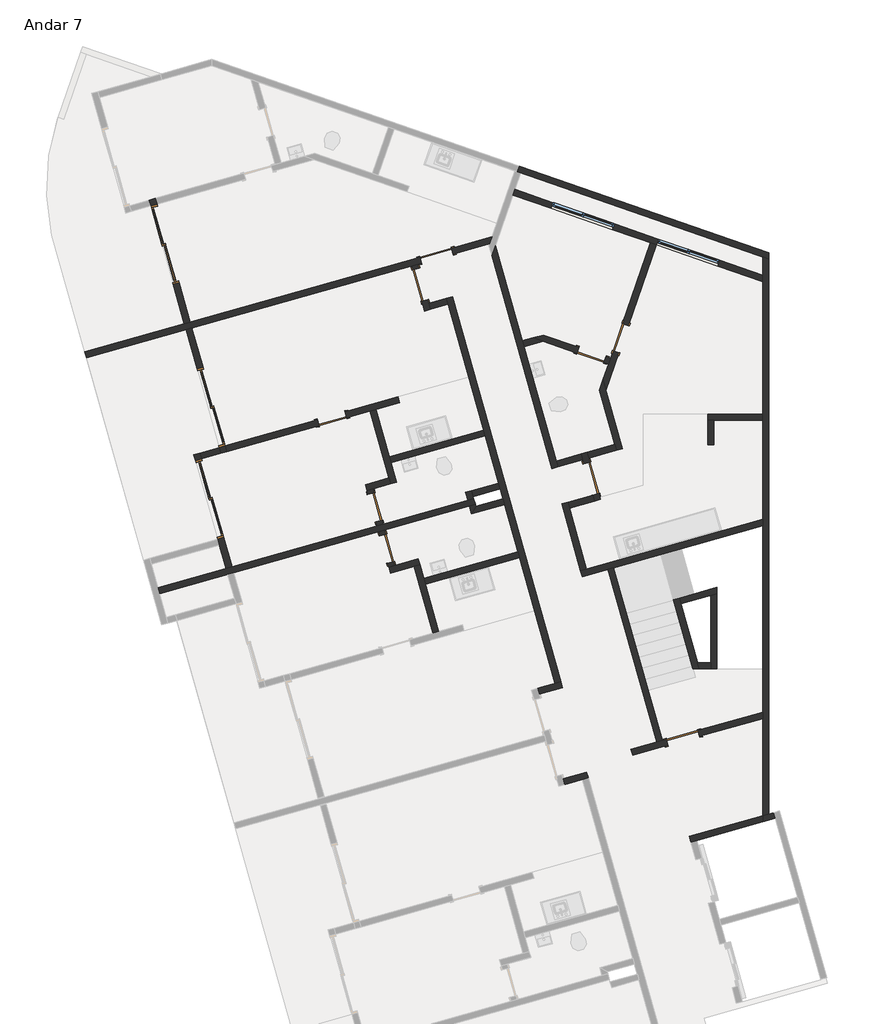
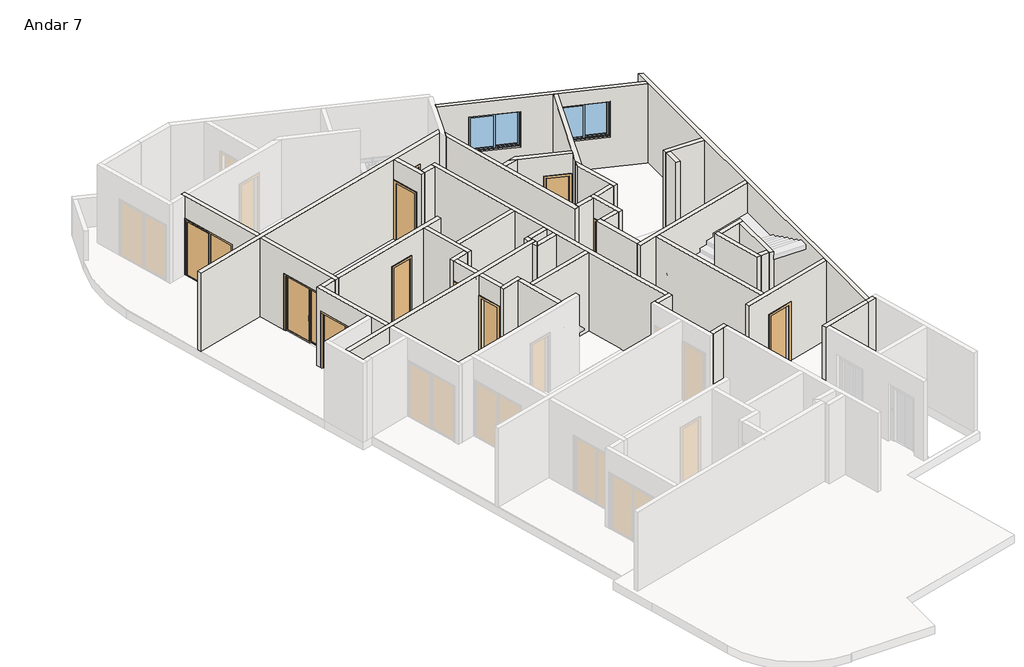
# One storey, part 2 of 3: 48 walls, 12 doors, 2 windows.
"""IFC4 building model written with IfcOpenShell, lengths in millimetres."""

from ifc_helpers import new_model, si_unit, frame, origin, place, context, project, spatial, polyline, outline, extrude, faceted_brep, transform, mapped, element, save
from components import p2_80cm_9d4be4ef, p2_80cm_083652d6, p3_70cm_ef4d15e3, p3_70cm_0a698c7c, p4_correr_200cm_eaaa0877, jx_160cm_e9e36a0c

model = new_model("IFC4")

# Units and contexts
model_context = context("Model", 3, world=origin())
ifc_project = project(units=[si_unit("LENGTHUNIT", "METRE", prefix="MILLI")], contexts=[model_context])

# Site, building, storey
site = spatial("IfcSite", under=ifc_project)
building = spatial("IfcBuilding", under=site)
storey = spatial("IfcBuildingStorey", under=building, Name="Andar 7", Elevation=71050.0)

# Doors
placement = place(None, origin())
p2_80cm_shape = p2_80cm_9d4be4ef(model_context)
element("IfcDoor", 1, ObjectType="M_Folha única1 : P2 - 80CM", at=placement, inside=storey, context=model_context, shape_type="MappedRepresentation", body=[
    mapped(p2_80cm_shape, transform((-83145.1128896, 30941.0402894, 71050.0), x_axis=(-0.9623628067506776, -0.2717679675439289, 0.0), y_axis=(0.2717679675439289, -0.9623628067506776, 0.0), z_axis=(0.0, 0.0, 1.0))),
])
element("IfcDoor", 2, ObjectType="M_Folha única1 : P2 - 80CM", at=placement, inside=storey, context=model_context, shape_type="MappedRepresentation", body=[
    mapped(p2_80cm_shape, transform((-79349.4097406, 25479.1041247, 71050.0), x_axis=(-0.27176796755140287, 0.962362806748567, 0.0), y_axis=(-0.962362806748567, -0.27176796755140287, 0.0), z_axis=(0.0, 0.0, 1.0))),
])
p2_80cm_2_shape = p2_80cm_083652d6(model_context)
element("IfcDoor", 3, ObjectType="M_Folha única1 : P2 - 80CM", at=placement, inside=storey, context=model_context, shape_type="MappedRepresentation", body=[
    mapped(p2_80cm_2_shape, transform((-83542.2049222, 30231.4150941, 71050.0), x_axis=(-0.2717679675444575, 0.9623628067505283, 0.0), y_axis=(-0.9623628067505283, -0.2717679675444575, 0.0), z_axis=(0.0, 0.0, 1.0))),
])
p3_70cm_shape = p3_70cm_ef4d15e3(model_context)
element("IfcDoor", 4, ObjectType="M_Folha única1 : P3 - 70CM", at=placement, inside=storey, context=model_context, shape_type="MappedRepresentation", body=[
    mapped(p3_70cm_shape, transform((-84650.97864, 24774.7108835, 71050.0), x_axis=(0.2717679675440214, -0.9623628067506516, 0.0), y_axis=(0.9623628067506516, 0.2717679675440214, 0.0), z_axis=(0.0, 0.0, 1.0))),
])
p3_70cm_2_shape = p3_70cm_0a698c7c(model_context)
element("IfcDoor", 5, ObjectType="M_Folha única1 : P3 - 70CM", at=placement, inside=storey, context=model_context, shape_type="MappedRepresentation", body=[
    mapped(p3_70cm_2_shape, transform((-84365.6222741, 23764.2299364, 71050.0), x_axis=(-0.2717679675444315, 0.9623628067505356, 0.0), y_axis=(-0.9623628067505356, -0.2717679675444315, 0.0), z_axis=(0.0, 0.0, 1.0))),
])
element("IfcDoor", 6, ObjectType="M_Folha única1 : P3 - 70CM", at=placement, inside=storey, context=model_context, shape_type="MappedRepresentation", body=[
    mapped(p3_70cm_2_shape, transform((-85705.4317558, 26944.8211633, 71050.0), x_axis=(0.9623628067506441, 0.2717679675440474, 0.0), y_axis=(-0.2717679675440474, 0.9623628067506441, 0.0), z_axis=(0.0, 0.0, 1.0))),
])
element("IfcDoor", 7, ObjectType="M_Folha única1 : P3 - 70CM", at=placement, inside=storey, context=model_context, shape_type="MappedRepresentation", body=[
    mapped(p3_70cm_2_shape, transform((-79346.1223746, 28509.6973665, 71050.0), x_axis=(0.9449109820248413, -0.32732741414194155, 0.0), y_axis=(0.32732741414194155, 0.9449109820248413, 0.0), z_axis=(0.0, 0.0, 1.0))),
])
element("IfcDoor", 8, ObjectType="M_Folha única1 : P3 - 70CM", at=placement, inside=storey, context=model_context, shape_type="MappedRepresentation", body=[
    mapped(p3_70cm_2_shape, transform((-78626.5662556, 28921.8732895, 71050.0), x_axis=(-0.32732741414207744, -0.9449109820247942, 0.0), y_axis=(0.9449109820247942, -0.32732741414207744, 0.0), z_axis=(0.0, 0.0, 1.0))),
])
p4_correr_200cm_shape = p4_correr_200cm_eaaa0877(model_context)
element("IfcDoor", 9, ObjectType="Porta de correr dupla envidraçada sem revestimento : P4 - CORRER - 200CM", at=placement, inside=storey, context=model_context, shape_type="MappedRepresentation", body=[
    mapped(p4_correr_200cm_shape, transform((-89799.7974026, 31217.9316171, 71050.0), x_axis=(0.27176796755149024, -0.9623628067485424, 0.0), y_axis=(0.9623628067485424, 0.27176796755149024, 0.0), z_axis=(0.0, 0.0, 1.0))),
])
element("IfcDoor", 10, ObjectType="Porta de correr dupla envidraçada sem revestimento : P4 - CORRER - 200CM", at=placement, inside=storey, context=model_context, shape_type="MappedRepresentation", body=[
    mapped(p4_correr_200cm_shape, transform((-88671.9603372, 27224.125969, 71050.0), x_axis=(-0.27176796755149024, 0.9623628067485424, 0.0), y_axis=(-0.9623628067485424, -0.27176796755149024, 0.0), z_axis=(0.0, 0.0, 1.0))),
])
element("IfcDoor", 11, ObjectType="Porta de correr dupla envidraçada sem revestimento : P4 - CORRER - 200CM", at=placement, inside=storey, context=model_context, shape_type="MappedRepresentation", body=[
    mapped(p4_correr_200cm_shape, transform((-88709.3738038, 24979.4758572, 71050.0), x_axis=(-0.2717679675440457, 0.9623628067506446, 0.0), y_axis=(-0.9623628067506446, -0.2717679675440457, 0.0), z_axis=(0.0, 0.0, 1.0))),
])
element("IfcDoor", 12, ObjectType="M_Folha única1 : PCF1 - 80CM", at=placement, inside=storey, context=model_context, shape_type="MappedRepresentation", body=[
    mapped(p2_80cm_shape, transform((-77103.5502958, 19127.1105693, 71050.0), x_axis=(-0.9623628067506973, -0.2717679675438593, 0.0), y_axis=(0.2717679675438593, -0.9623628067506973, 0.0), z_axis=(0.0, 0.0, 1.0))),
])

# Walls
element("IfcWall", 13, ObjectType="Básica .15 -  Interna", at=placement, inside=storey, context=model_context, shape_type="Brep", body=[
    faceted_brep([(-82901.0804648, 29892.9118737, 71050.0), (-82860.3152697, 29748.5574527, 71050.0), (-81990.6577736, 26668.9964711, 71050.0), (-81949.8925784, 26524.6420501, 71050.0), (-81623.7710174, 25369.806682, 71050.0), (-81583.0058223, 25225.452261, 71050.0), (-81515.0638304, 24984.8615593, 71050.0), (-81474.2986352, 24840.5071383, 71050.0), (-81148.1770742, 23685.6717702, 71050.0), (-81107.4118791, 23541.3173492, 71050.0), (-80237.7543829, 20461.7563676, 71050.0), (-80237.7543829, 20461.7563676, 73950.0), (-81107.4118791, 23541.3173492, 73950.0), (-81148.1770742, 23685.6717702, 73950.0), (-81474.2986352, 24840.5071383, 73950.0), (-81515.0638304, 24984.8615593, 73950.0), (-81583.0058223, 25225.452261, 73950.0), (-81623.7710174, 25369.806682, 73950.0), (-81949.8925784, 26524.6420501, 73950.0), (-81990.6577736, 26668.9964711, 73950.0), (-82860.3152697, 29748.5574527, 73950.0), (-82901.0804648, 29892.9118737, 73950.0), (-82756.7260438, 29933.6770689, 71050.0), (-82756.7260438, 29933.6770689, 73950.0), (-80093.3999619, 20502.5215627, 73950.0), (-80093.3999619, 20502.5215627, 71050.0)], [[[0, 1, 2, 3, 4, 5, 6, 7, 8, 9, 10, 11, 12, 13, 14, 15, 16, 17, 18, 19, 20, 21]], [[22, 23, 24, 25]], [[10, 9, 8, 7, 6, 5, 4, 3, 2, 1, 0, 22, 25]], [[21, 20, 19, 18, 17, 16, 15, 14, 13, 12, 11, 24, 23]], [[0, 21, 23, 22]], [[11, 10, 25, 24]]]),
])
element("IfcWall", 14, ObjectType="Básica .15 -  Interna", at=placement, inside=storey, context=model_context, shape_type="Brep", body=[
    faceted_brep([(-83750.2661164, 30692.2138999, 71050.0), (-83723.0893197, 30595.9776193, 71050.0), (-83723.0893197, 30595.9776193, 73150.0), (-83505.6749457, 29826.0873739, 73150.0), (-83505.6749457, 29826.0873739, 71050.0), (-83437.7329538, 29585.4966722, 71050.0), (-83437.7329538, 29585.4966722, 73950.0), (-83750.2661164, 30692.2138999, 73950.0), (-83578.7348987, 30636.7428144, 73150.0), (-83578.7348987, 30636.7428144, 71050.0), (-83605.9116954, 30732.9790951, 71050.0), (-83605.9116954, 30732.9790951, 73950.0), (-83334.1437279, 29770.6162883, 73950.0), (-83293.3785328, 29626.2618673, 73950.0), (-83293.3785328, 29626.2618673, 71050.0), (-83334.1437279, 29770.6162883, 71050.0), (-83361.3205246, 29866.852569, 71050.0), (-83361.3205246, 29866.852569, 73150.0)], [[[0, 1, 2, 3, 4, 5, 6, 7]], [[8, 9, 10, 11, 12, 13, 14, 15, 16, 17]], [[10, 9, 1, 0]], [[16, 15, 14, 5, 4]], [[7, 6, 13, 12, 11]], [[6, 5, 14, 13]], [[0, 7, 11, 10]], [[2, 1, 9, 8]], [[3, 2, 8, 17]], [[4, 3, 17, 16]]]),
])
element("IfcWall", 15, ObjectType="Básica .15 -  Interna", at=placement, inside=storey, context=model_context, shape_type="SweptSolid", body=[
    extrude(outline(polyline([(-82860.3152697, 29748.5574527), (-83293.3785328, 29626.2618673), (-83334.1437279, 29770.6162883), (-82901.0804648, 29892.9118737), (-82860.3152697, 29748.5574527)])), frame((0.0, 0.0, 71050.0), z_axis=(0.0, 0.0, 1.0), x_axis=(1.0, 0.0, 0.0)), (0.0, 0.0, 1.0), 2900.0),
])
element("IfcWall", 16, ObjectType="Básica .15 -  Interna", at=placement, inside=storey, context=model_context, shape_type="Brep", body=[
    faceted_brep([(-80093.3999619, 20502.5215627, 71050.0), (-80237.7543829, 20461.7563676, 71050.0), (-80670.817646, 20339.4607822, 71050.0), (-80670.817646, 20339.4607822, 73950.0), (-80237.7543829, 20461.7563676, 73950.0), (-80093.3999619, 20502.5215627, 73950.0), (-80052.6347668, 20358.1671417, 71050.0), (-80052.6347668, 20358.1671417, 73950.0), (-80630.0524508, 20195.1063612, 73950.0), (-80630.0524508, 20195.1063612, 71050.0)], [[[0, 1, 2, 3, 4, 5]], [[6, 7, 8, 9]], [[2, 1, 0, 6, 9]], [[5, 4, 3, 8, 7]], [[3, 2, 9, 8]], [[0, 5, 7, 6]]]),
])
element("IfcWall", 17, ObjectType="Básica .15 -  Interna", at=placement, inside=storey, context=model_context, shape_type="Brep", body=[
    faceted_brep([(-80004.9861255, 17981.6719056, 71050.0), (-79571.9228624, 18103.967491, 71050.0), (-79427.5684414, 18144.7326862, 71050.0), (-79427.5684414, 18144.7326862, 73950.0), (-79571.9228624, 18103.967491, 73950.0), (-80004.9861255, 17981.6719056, 73950.0), (-80045.7513206, 18126.0263266, 71050.0), (-80045.7513206, 18126.0263266, 73950.0), (-79468.3336366, 18289.0871072, 73950.0), (-79468.3336366, 18289.0871072, 71050.0)], [[[0, 1, 2, 3, 4, 5]], [[6, 7, 8, 9]], [[2, 1, 0, 6, 9]], [[5, 4, 3, 8, 7]], [[3, 2, 9, 8]], [[0, 5, 7, 6]]]),
])
element("IfcWall", 18, ObjectType="Básica .15 -  Interna", at=placement, inside=storey, context=model_context, shape_type="Brep", body=[
    faceted_brep([(-88305.9570711, 23274.9583478, 73950.0), (-88469.0178517, 23852.3760319, 73950.0), (-88509.7830468, 23996.7304529, 73950.0), (-89094.084177, 26065.8104874, 73950.0), (-89094.084177, 26065.8104874, 71050.0), (-89053.3189819, 25921.4560664, 71050.0), (-89053.3189819, 25921.4560664, 73150.0), (-88509.7830468, 23996.7304529, 73150.0), (-88509.7830468, 23996.7304529, 71050.0), (-88469.0178517, 23852.3760319, 71050.0), (-88305.9570711, 23274.9583478, 71050.0), (-88949.729756, 26106.5756825, 73950.0), (-88908.9645609, 25962.2212615, 73950.0), (-88161.6026501, 23315.723543, 73950.0), (-88161.6026501, 23315.723543, 71050.0), (-88365.4286258, 24037.495648, 71050.0), (-88365.4286258, 24037.495648, 73150.0), (-88908.9645609, 25962.2212615, 73150.0), (-88908.9645609, 25962.2212615, 71050.0), (-88949.729756, 26106.5756825, 71050.0)], [[[0, 1, 2, 3, 4, 5, 6, 7, 8, 9, 10]], [[11, 12, 13, 14, 15, 16, 17, 18, 19]], [[4, 19, 18, 5]], [[14, 10, 9, 8, 15]], [[3, 2, 1, 0, 13, 12, 11]], [[4, 3, 11, 19]], [[0, 10, 14, 13]], [[17, 6, 5, 18]], [[6, 17, 16, 7]], [[7, 16, 15, 8]]]),
])
element("IfcWall", 19, ObjectType="Básica .15 -  Interna", at=placement, inside=storey, context=model_context, shape_type="Brep", body=[
    faceted_brep([(-89143.3190618, 29169.2341801, 73950.0), (-88328.0151592, 26282.1457598, 73950.0), (-88287.249964, 26137.7913388, 73950.0), (-88287.249964, 26137.7913388, 71050.0), (-88328.0151592, 26282.1457598, 71050.0), (-88328.0151592, 26282.1457598, 73150.0), (-88871.5510943, 28206.8713733, 73150.0), (-88871.5510943, 28206.8713733, 71050.0), (-89143.3190618, 29169.2341801, 71050.0), (-88431.604385, 26097.0261437, 73950.0), (-88472.3695802, 26241.3805647, 73950.0), (-89287.6734828, 29128.468985, 73950.0), (-89287.6734828, 29128.468985, 71050.0), (-89015.9055153, 28166.1061782, 71050.0), (-89015.9055153, 28166.1061782, 73150.0), (-88472.3695802, 26241.3805647, 73150.0), (-88472.3695802, 26241.3805647, 71050.0), (-88431.604385, 26097.0261437, 71050.0)], [[[0, 1, 2, 3, 4, 5, 6, 7, 8]], [[9, 10, 11, 12, 13, 14, 15, 16, 17]], [[3, 17, 16, 4]], [[12, 8, 7, 13]], [[2, 1, 0, 11, 10, 9]], [[3, 2, 9, 17]], [[0, 8, 12, 11]], [[6, 14, 13, 7]], [[14, 6, 5, 15]], [[15, 5, 4, 16]]]),
])
element("IfcWall", 20, ObjectType="Básica .15 -  Interna", at=placement, inside=storey, context=model_context, shape_type="Brep", body=[
    faceted_brep([(-76904.7538909, 16570.3643175, 71050.0), (-76760.3994699, 16611.1295126, 71050.0), (-75147.8282189, 17066.5141226, 71050.0), (-75147.8282189, 17066.5141226, 73950.0), (-76760.3994699, 16611.1295126, 73950.0), (-76904.7538909, 16570.3643175, 73950.0), (-76945.5190861, 16714.7187385, 71050.0), (-76945.5190861, 16714.7187385, 73950.0), (-75147.8282189, 17222.3804954, 73950.0), (-75147.8282189, 17222.3804954, 71050.0)], [[[0, 1, 2, 3, 4, 5]], [[6, 7, 8, 9]], [[2, 1, 0, 6, 9]], [[5, 4, 3, 8, 7]], [[0, 5, 7, 6]], [[3, 2, 9, 8]]]),
])
element("IfcWall", 21, ObjectType="Básica .15 -  Interna", at=placement, inside=storey, context=model_context, shape_type="Brep", body=[
    faceted_brep([(-79570.9048554, 23078.5590693, 71050.0), (-78948.2127609, 23254.4051886, 71050.0), (-78803.8582924, 23295.1703972, 71050.0), (-75147.8282189, 24327.6207947, 71050.0), (-75147.8282189, 24327.6207947, 73950.0), (-78803.8582924, 23295.1703972, 73950.0), (-78948.2127609, 23254.4051886, 73950.0), (-79570.9048554, 23078.5590693, 73950.0), (-79611.6700506, 23222.9134903, 71050.0), (-79611.6700506, 23222.9134903, 73950.0), (-79467.3156296, 23263.6786855, 73950.0), (-75147.8282189, 24483.4871675, 73950.0), (-75147.8282189, 24483.4871675, 71050.0), (-79467.3156296, 23263.6786855, 71050.0)], [[[0, 1, 2, 3, 4, 5, 6, 7]], [[8, 9, 10, 11, 12, 13]], [[3, 2, 1, 0, 8, 13, 12]], [[7, 6, 5, 4, 11, 10, 9]], [[0, 7, 9, 8]], [[4, 3, 12, 11]]]),
])
element("IfcWall", 22, ObjectType="Básica .15 -  Interna", at=placement, inside=storey, context=model_context, shape_type="SweptSolid", body=[
    extrude(outline(polyline([(-77749.4687652, 19022.6385875), (-78948.2127609, 23254.4051886), (-78803.8582924, 23295.1703972), (-77605.1142967, 19063.4037961), (-77749.4687652, 19022.6385875)])), frame((0.0, 0.0, 71050.0), z_axis=(0.0, 0.0, 1.0), x_axis=(1.0, 0.0, 0.0)), (0.0, 0.0, 1.0), 2900.0),
])
element("IfcWall", 23, ObjectType="Básica .15 -  Interna", at=placement, inside=storey, context=model_context, shape_type="Brep", body=[
    faceted_brep([(-77508.878016, 19090.5805928, 73150.0), (-77508.878016, 19090.5805928, 71050.0), (-77605.1142967, 19063.4037961, 71050.0), (-77749.4687652, 19022.6385875, 71050.0), (-78375.5945972, 18845.8227925, 71050.0), (-78375.5945972, 18845.8227925, 73950.0), (-77749.4687652, 19022.6385875, 73950.0), (-77605.1142967, 19063.4037961, 73950.0), (-75147.8282189, 19757.3329862, 73950.0), (-75147.8282189, 19757.3329862, 71050.0), (-76738.9877706, 19307.9949669, 71050.0), (-76738.9877706, 19307.9949669, 73150.0), (-78334.829402, 18701.4683715, 71050.0), (-77468.1128209, 18946.2261718, 71050.0), (-77468.1128209, 18946.2261718, 73150.0), (-76698.2225755, 19163.6405459, 73150.0), (-76698.2225755, 19163.6405459, 71050.0), (-75147.8282189, 19601.4666134, 71050.0), (-75147.8282189, 19601.4666134, 73950.0), (-78334.829402, 18701.4683715, 73950.0)], [[[0, 1, 2, 3, 4, 5, 6, 7, 8, 9, 10, 11]], [[12, 13, 14, 15, 16, 17, 18, 19]], [[10, 9, 17, 16]], [[4, 3, 2, 1, 13, 12]], [[5, 4, 12, 19]], [[8, 7, 6, 5, 19, 18]], [[14, 13, 1, 0]], [[15, 14, 0, 11]], [[16, 15, 11, 10]], [[9, 8, 18, 17]]]),
])
element("IfcWall", 24, ObjectType="Básica .15 - Externa", at=placement, inside=storey, context=model_context, shape_type="Brep", body=[
    faceted_brep([(-75147.8282189, 30909.9128092, 73950.0), (-75147.8282189, 30909.9128092, 71050.0), (-75147.8282189, 30461.6117638, 71050.0), (-75147.8282189, 30302.8666514, 71050.0), (-75147.8282189, 27060.8243598, 71050.0), (-75147.8282189, 26910.8243598, 71050.0), (-75147.8282189, 24483.4871675, 71050.0), (-75147.8282189, 24327.6207947, 71050.0), (-75147.8282189, 19757.3329862, 71050.0), (-75147.8282189, 19601.4666134, 71050.0), (-75147.8282189, 17222.3804954, 71050.0), (-75147.8282189, 17222.3804954, 73950.0), (-75147.8282189, 19601.4666134, 73950.0), (-75147.8282189, 19757.3329862, 73950.0), (-75147.8282189, 24327.6207947, 73950.0), (-75147.8282189, 24483.4871675, 73950.0), (-75147.8282189, 26910.8243598, 73950.0), (-75147.8282189, 27060.8243598, 73950.0), (-75147.8282189, 30302.8666514, 73950.0), (-75147.8282189, 30461.6117638, 73950.0), (-74997.8282189, 30857.9511821, 71050.0), (-74997.8282189, 30857.9511821, 72350.0), (-74997.8282189, 30857.9511821, 73650.0), (-74997.8282189, 30857.9511821, 73950.0), (-74997.8282189, 17264.7399828, 73950.0), (-74997.8282189, 17264.7399828, 71050.0)], [[[0, 1, 2, 3, 4, 5, 6, 7, 8, 9, 10, 11, 12, 13, 14, 15, 16, 17, 18, 19]], [[20, 21, 22, 23, 24, 25]], [[10, 9, 8, 7, 6, 5, 4, 3, 2, 1, 20, 25]], [[0, 19, 18, 17, 16, 15, 14, 13, 12, 11, 24, 23]], [[11, 10, 25, 24]], [[0, 23, 22, 21, 20, 1]]]),
])
element("IfcWall", 25, ObjectType="Básica .15 -  Interna", at=placement, inside=storey, context=model_context, shape_type="Brep", body=[
    faceted_brep([(-80073.6755954, 24858.9302618, 71050.0), (-79611.6700506, 23222.9134903, 71050.0), (-79611.6700506, 23222.9134903, 73950.0), (-80073.6755954, 24858.9302618, 73950.0), (-79929.3211744, 24899.695457, 71050.0), (-79929.3211744, 24899.695457, 73950.0), (-79888.5559793, 24755.3410359, 73950.0), (-79467.3156296, 23263.6786855, 73950.0), (-79467.3156296, 23263.6786855, 71050.0), (-79888.5559793, 24755.3410359, 71050.0)], [[[0, 1, 2, 3]], [[4, 5, 6, 7, 8, 9]], [[1, 0, 4, 9, 8]], [[3, 2, 7, 6, 5]], [[0, 3, 5, 4]], [[2, 1, 8, 7]]]),
])
element("IfcWall", 26, ObjectType="Básica .15 -  Interna", at=placement, inside=storey, context=model_context, shape_type="Brep", body=[
    faceted_brep([(-79888.5559793, 24755.3410359, 71050.0), (-79272.1145689, 24929.4219834, 71050.0), (-79272.1145689, 24929.4219834, 73950.0), (-79888.5559793, 24755.3410359, 73950.0), (-79929.3211744, 24899.695457, 71050.0), (-79929.3211744, 24899.695457, 73950.0), (-79312.8797641, 25073.7764044, 73950.0), (-79312.8797641, 25073.7764044, 73150.0), (-79312.8797641, 25073.7764044, 71050.0)], [[[0, 1, 2, 3]], [[4, 5, 6, 7, 8]], [[1, 0, 4, 8]], [[3, 2, 6, 5]], [[0, 3, 5, 4]], [[2, 1, 8, 7, 6]]]),
])
element("IfcWall", 27, ObjectType="Básica .15 -  Interna", at=placement, inside=storey, context=model_context, shape_type="Brep", body=[
    faceted_brep([(-79598.23613, 26084.2573515, 71050.0), (-79557.4709349, 25939.9029305, 71050.0), (-79530.2941381, 25843.6666498, 71050.0), (-79530.2941381, 25843.6666498, 73150.0), (-79312.8797641, 25073.7764044, 73150.0), (-79312.8797641, 25073.7764044, 71050.0), (-79272.1145689, 24929.4219834, 71050.0), (-79272.1145689, 24929.4219834, 73950.0), (-79312.8797641, 25073.7764044, 73950.0), (-79557.4709349, 25939.9029305, 73950.0), (-79598.23613, 26084.2573515, 73950.0), (-79385.9397171, 25884.4318449, 73150.0), (-79385.9397171, 25884.4318449, 71050.0), (-79413.1165138, 25980.6681256, 71050.0), (-79453.881709, 26125.0225466, 71050.0), (-79453.881709, 26125.0225466, 73950.0), (-79413.1165138, 25980.6681256, 73950.0), (-79127.7601479, 24970.1871785, 73950.0), (-79127.7601479, 24970.1871785, 71050.0), (-79168.5253431, 25114.5415995, 71050.0), (-79168.5253431, 25114.5415995, 73150.0)], [[[0, 1, 2, 3, 4, 5, 6, 7, 8, 9, 10]], [[11, 12, 13, 14, 15, 16, 17, 18, 19, 20]], [[19, 18, 6, 5]], [[14, 13, 12, 2, 1, 0]], [[10, 9, 8, 7, 17, 16, 15]], [[7, 6, 18, 17]], [[0, 10, 15, 14]], [[3, 2, 12, 11]], [[4, 3, 11, 20]], [[5, 4, 20, 19]]]),
])
element("IfcWall", 28, ObjectType="Básica .15 -  Interna", at=placement, inside=storey, context=model_context, shape_type="Brep", body=[
    faceted_brep([(-81789.2550074, 30934.0017027, 71050.0), (-80318.2667662, 25725.0567879, 71050.0), (-80318.2667662, 25725.0567879, 73950.0), (-81789.2550074, 30934.0017027, 73950.0), (-81703.3880158, 31181.8778654, 71050.0), (-81703.3880158, 31181.8778654, 73950.0), (-81045.1503443, 28850.9797144, 73950.0), (-81004.3851492, 28706.6252933, 73950.0), (-80214.6775403, 25910.176404, 73950.0), (-80173.9123452, 25765.821983, 73950.0), (-80173.9123452, 25765.821983, 71050.0), (-80214.6775403, 25910.176404, 71050.0), (-81004.3851492, 28706.6252933, 71050.0), (-81045.1503443, 28850.9797144, 71050.0)], [[[0, 1, 2, 3]], [[4, 5, 6, 7, 8, 9, 10, 11, 12, 13]], [[1, 0, 4, 13, 12, 11, 10]], [[3, 2, 9, 8, 7, 6, 5]], [[0, 3, 5, 4]], [[2, 1, 10, 9]]]),
])
element("IfcWall", 29, ObjectType="Básica .15 -  Interna", at=placement, inside=storey, context=model_context, shape_type="Brep", body=[
    faceted_brep([(-88908.9645609, 25962.2212615, 71050.0), (-88431.604385, 26097.0261437, 71050.0), (-88431.604385, 26097.0261437, 73950.0), (-88908.9645609, 25962.2212615, 73950.0), (-88908.9645609, 25962.2212615, 73150.0), (-88949.729756, 26106.5756825, 71050.0), (-88949.729756, 26106.5756825, 73950.0), (-88472.3695802, 26241.3805647, 73950.0), (-88472.3695802, 26241.3805647, 71050.0)], [[[0, 1, 2, 3, 4]], [[5, 6, 7, 8]], [[1, 0, 5, 8]], [[3, 2, 7, 6]], [[0, 4, 3, 6, 5]], [[2, 1, 8, 7]]]),
])
element("IfcWall", 30, ObjectType="Básica .15 -  Interna", at=placement, inside=storey, context=model_context, shape_type="SweptSolid", body=[
    extrude(outline(polyline([(-79557.4709349, 25939.9029305), (-80173.9123452, 25765.821983), (-80214.6775403, 25910.176404), (-79598.23613, 26084.2573515), (-79557.4709349, 25939.9029305)])), frame((0.0, 0.0, 71050.0), z_axis=(0.0, 0.0, 1.0), x_axis=(1.0, 0.0, 0.0)), (0.0, 0.0, 1.0), 2900.0),
])
element("IfcWall", 31, ObjectType="Básica .15 -  Interna", at=placement, inside=storey, context=model_context, shape_type="Brep", body=[
    faceted_brep([(-91725.2428613, 28440.1077234, 71050.0), (-89287.6734828, 29128.468985, 71050.0), (-89143.3190618, 29169.2341801, 71050.0), (-83750.2661164, 30692.2138999, 71050.0), (-83605.9116954, 30732.9790951, 71050.0), (-83509.6754148, 30760.1558918, 71050.0), (-83509.6754148, 30760.1558918, 73150.0), (-82739.7851694, 30977.5702659, 73150.0), (-82739.7851694, 30977.5702659, 71050.0), (-81845.4155775, 31230.1371819, 71050.0), (-81845.4155775, 31230.1371819, 73950.0), (-83605.9116954, 30732.9790951, 73950.0), (-83750.2661164, 30692.2138999, 73950.0), (-89143.3190618, 29169.2341801, 73950.0), (-89287.6734828, 29128.468985, 73950.0), (-91725.2428613, 28440.1077234, 73950.0), (-83550.4406099, 30904.5103128, 73150.0), (-83550.4406099, 30904.5103128, 71050.0), (-89184.084257, 29313.5886011, 71050.0), (-89328.438678, 29272.823406, 71050.0), (-91766.0080564, 28584.4621444, 71050.0), (-91766.0080564, 28584.4621444, 73950.0), (-89328.438678, 29272.823406, 73950.0), (-89184.084257, 29313.5886011, 73950.0), (-81785.5670817, 31402.9045654, 73950.0), (-81785.5670817, 31402.9045654, 71050.0), (-82780.5503645, 31121.9246869, 71050.0), (-82780.5503645, 31121.9246869, 73150.0)], [[[0, 1, 2, 3, 4, 5, 6, 7, 8, 9, 10, 11, 12, 13, 14, 15]], [[16, 17, 18, 19, 20, 21, 22, 23, 24, 25, 26, 27]], [[26, 25, 9, 8]], [[20, 19, 18, 17, 5, 4, 3, 2, 1, 0]], [[15, 14, 13, 12, 11, 10, 24, 23, 22, 21]], [[0, 15, 21, 20]], [[10, 9, 25, 24]], [[6, 5, 17, 16]], [[7, 6, 16, 27]], [[8, 7, 27, 26]]]),
])
element("IfcWall", 32, ObjectType="Básica .15 -  Interna", at=placement, inside=storey, context=model_context, shape_type="Brep", body=[
    faceted_brep([(-90040.1533547, 32345.0314424, 73950.0), (-89999.3881596, 32200.6770214, 73950.0), (-89184.084257, 29313.5886011, 73950.0), (-89184.084257, 29313.5886011, 71050.0), (-89455.8522245, 30275.9514079, 71050.0), (-89455.8522245, 30275.9514079, 73150.0), (-89999.3881596, 32200.6770214, 73150.0), (-89999.3881596, 32200.6770214, 71050.0), (-90040.1533547, 32345.0314424, 71050.0), (-89328.438678, 29272.823406, 73950.0), (-90143.7425806, 32159.9118263, 73950.0), (-90184.5077758, 32304.2662473, 73950.0), (-90184.5077758, 32304.2662473, 71050.0), (-90143.7425806, 32159.9118262, 71050.0), (-90143.7425806, 32159.9118262, 73150.0), (-89600.2066455, 30235.1862128, 73150.0), (-89600.2066455, 30235.1862128, 71050.0), (-89328.438678, 29272.823406, 71050.0)], [[[0, 1, 2, 3, 4, 5, 6, 7, 8]], [[9, 10, 11, 12, 13, 14, 15, 16, 17]], [[12, 8, 7, 13]], [[3, 17, 16, 4]], [[2, 1, 0, 11, 10, 9]], [[0, 8, 12, 11]], [[3, 2, 9, 17]], [[15, 5, 4, 16]], [[5, 15, 14, 6]], [[6, 14, 13, 7]]]),
])
element("IfcWall", 33, ObjectType="Básica .15 -  Interna", at=placement, inside=storey, context=model_context, shape_type="Brep", body=[
    faceted_brep([(-89936.6922366, 22658.5779377, 71050.0), (-88265.191876, 23130.6039268, 71050.0), (-88120.837455, 23171.369122, 71050.0), (-84560.09507, 24176.9106019, 71050.0), (-84415.740649, 24217.675797, 71050.0), (-82192.6825654, 24845.459802, 71050.0), (-82192.6825654, 24845.459802, 73950.0), (-84415.740649, 24217.675797, 73950.0), (-84560.09507, 24176.9106019, 73950.0), (-88120.837455, 23171.369122, 73950.0), (-88265.191876, 23130.6039268, 73950.0), (-89936.6922366, 22658.5779377, 73950.0), (-89977.4574318, 22802.9323587, 71050.0), (-89977.4574318, 22802.9323587, 73950.0), (-88305.9570711, 23274.9583478, 73950.0), (-88161.6026501, 23315.723543, 73950.0), (-84600.8602651, 24321.2650229, 73950.0), (-84456.5058441, 24362.030218, 73950.0), (-82233.4477605, 24989.814223, 73950.0), (-82233.4477605, 24989.814223, 71050.0), (-84456.5058441, 24362.030218, 71050.0), (-84600.8602651, 24321.2650229, 71050.0), (-88161.6026501, 23315.723543, 71050.0), (-88305.9570711, 23274.9583478, 71050.0)], [[[0, 1, 2, 3, 4, 5, 6, 7, 8, 9, 10, 11]], [[12, 13, 14, 15, 16, 17, 18, 19, 20, 21, 22, 23]], [[5, 4, 3, 2, 1, 0, 12, 23, 22, 21, 20, 19]], [[6, 5, 19, 18]], [[11, 10, 9, 8, 7, 6, 18, 17, 16, 15, 14, 13]], [[0, 11, 13, 12]]]),
])
element("IfcWall", 34, ObjectType="Básica .15 -  Interna", at=placement, inside=storey, context=model_context, shape_type="Brep", body=[
    faceted_brep([(-81272.8781344, 32424.6503839, 71050.0), (-77897.5766162, 31255.4093243, 71050.0), (-77755.8399689, 31206.3102121, 71050.0), (-75147.8282189, 30302.8666514, 71050.0), (-75147.8282189, 30302.8666514, 73950.0), (-77755.8399689, 31206.3102121, 73950.0), (-77897.5766162, 31255.4093243, 73950.0), (-81272.8781344, 32424.6503839, 73950.0), (-78829.2985897, 31578.1679228, 72150.0), (-80341.1561609, 32101.8917854, 72150.0), (-80341.1561609, 32101.8917854, 73450.0), (-78829.2985897, 31578.1679228, 73450.0), (-76243.9823976, 30682.5863495, 72150.0), (-77755.8399689, 31206.3102121, 72150.0), (-77755.8399689, 31206.3102121, 73450.0), (-76243.9823976, 30682.5863495, 73450.0), (-81223.7790223, 32566.3870312, 71050.0), (-81223.7790223, 32566.3870312, 73950.0), (-75147.8282189, 30461.6117638, 73950.0), (-75147.8282189, 30461.6117638, 71050.0), (-78780.1994776, 31719.9045701, 72150.0), (-78780.1994776, 31719.9045701, 73450.0), (-80292.0570488, 32243.6284327, 73450.0), (-80292.0570488, 32243.6284327, 72150.0), (-76194.8832855, 30824.3229968, 72150.0), (-76194.8832855, 30824.3229968, 73450.0), (-77706.7408568, 31348.0468595, 73450.0), (-77706.7408568, 31348.0468595, 72150.0)], [[[0, 1, 2, 3, 4, 5, 6, 7], [8, 9, 10, 11], [12, 13, 14, 15]], [[16, 17, 18, 19], [20, 21, 22, 23], [24, 25, 26, 27]], [[3, 2, 1, 0, 16, 19]], [[7, 6, 5, 4, 18, 17]], [[0, 7, 17, 16]], [[21, 20, 8, 11]], [[22, 21, 11, 10]], [[23, 22, 10, 9]], [[20, 23, 9, 8]], [[25, 24, 12, 15]], [[26, 25, 15, 14]], [[27, 26, 14, 13]], [[24, 27, 13, 12]], [[4, 3, 19, 18]]]),
])
element("IfcWall", 35, ObjectType="Básica .15 - Externa", at=placement, inside=storey, context=model_context, shape_type="Brep", body=[
    faceted_brep([(-81156.3583355, 32991.3328194, 72350.0), (-81156.3583355, 32991.3328194, 71050.0), (-81156.3583355, 32991.3328194, 70750.0), (-81085.1216301, 32966.655652, 70750.0), (-74997.8282189, 30857.9511821, 70750.0), (-74997.8282189, 30857.9511821, 71050.0), (-74997.8282189, 30857.9511821, 72350.0), (-81085.1216301, 32966.655652, 72350.0), (-81107.2592234, 33133.0694667, 70750.0), (-81107.2592234, 33133.0694667, 71050.0), (-81107.2592234, 33133.0694667, 72350.0), (-81036.022518, 33108.3922993, 72350.0), (-74997.8282189, 31016.6962944, 72350.0), (-74997.8282189, 31016.6962944, 70750.0), (-81036.022518, 33108.3922993, 70750.0)], [[[0, 1, 2, 3, 4, 5, 6, 7]], [[8, 9, 10, 11, 12, 13, 14]], [[4, 3, 2, 8, 14, 13]], [[0, 7, 6, 12, 11, 10]], [[0, 10, 9, 8, 2, 1]], [[4, 13, 12, 6, 5]]]),
])
element("IfcWall", 36, ObjectType="Básica .15 -  Interna", at=placement, inside=storey, context=model_context, shape_type="SweptSolid", body=[
    extrude(outline(polyline([(-82179.094167, 24797.3416617), (-81515.0638304, 24984.8615593), (-81474.2986352, 24840.5071383), (-82282.6833929, 24612.2220455), (-82179.094167, 24797.3416617)])), frame((0.0, 0.0, 71050.0), z_axis=(0.0, 0.0, 1.0), x_axis=(1.0, 0.0, 0.0)), (0.0, 0.0, 1.0), 2900.0),
])
element("IfcWall", 37, ObjectType="Básica .15 -  Interna", at=placement, inside=storey, context=model_context, shape_type="SweptSolid", body=[
    extrude(outline(polyline([(-82192.6825654, 24845.459802), (-82179.094167, 24797.3416617), (-82282.6833929, 24612.2220455), (-82337.0369864, 24804.6946069), (-82192.6825654, 24845.459802)])), frame((0.0, 0.0, 71050.0), z_axis=(0.0, 0.0, 1.0), x_axis=(1.0, 0.0, 0.0)), (0.0, 0.0, 1.0), 2900.0),
])
element("IfcWall", 38, ObjectType="Básica .15 -  Interna", at=placement, inside=storey, context=model_context, shape_type="Brep", body=[
    faceted_brep([(-83593.7317942, 23514.6100515, 71050.0), (-84171.1494782, 23351.5492709, 71050.0), (-84315.5038992, 23310.7840758, 71050.0), (-84315.5038992, 23310.7840758, 73950.0), (-84171.1494782, 23351.5492709, 73950.0), (-83593.7317942, 23514.6100515, 73950.0), (-83552.966599, 23370.2556304, 71050.0), (-83552.966599, 23370.2556304, 73950.0), (-83697.32102, 23329.4904353, 73950.0), (-84274.7387041, 23166.4296548, 73950.0), (-84274.7387041, 23166.4296548, 71050.0), (-83697.32102, 23329.4904353, 71050.0)], [[[0, 1, 2, 3, 4, 5]], [[6, 7, 8, 9, 10, 11]], [[2, 1, 0, 6, 11, 10]], [[5, 4, 3, 9, 8, 7]], [[0, 5, 7, 6]], [[3, 2, 10, 9]]]),
])
element("IfcWall", 39, ObjectType="Básica .15 -  Interna", at=placement, inside=storey, context=model_context, shape_type="Brep", body=[
    faceted_brep([(-83090.9610542, 21734.238859, 71050.0), (-83417.0826153, 22889.0742271, 71050.0), (-83457.8478104, 23033.4286481, 71050.0), (-83552.966599, 23370.2556304, 71050.0), (-83552.966599, 23370.2556304, 73950.0), (-83457.8478104, 23033.4286481, 73950.0), (-83417.0826153, 22889.0742271, 73950.0), (-83090.9610542, 21734.238859, 73950.0), (-83235.3154752, 21693.4736638, 71050.0), (-83235.3154752, 21693.4736638, 73950.0), (-83697.32102, 23329.4904353, 73950.0), (-83697.32102, 23329.4904353, 71050.0)], [[[0, 1, 2, 3, 4, 5, 6, 7]], [[8, 9, 10, 11]], [[3, 2, 1, 0, 8, 11]], [[7, 6, 5, 4, 10, 9]], [[0, 7, 9, 8]], [[4, 3, 11, 10]]]),
])
element("IfcWall", 40, ObjectType="Básica .15 -  Interna", at=placement, inside=storey, context=model_context, shape_type="SweptSolid", body=[
    extrude(outline(polyline([(-83457.8478104, 23033.4286481), (-81148.1770742, 23685.6717702), (-81107.4118791, 23541.3173492), (-83417.0826153, 22889.0742271), (-83457.8478104, 23033.4286481)])), frame((0.0, 0.0, 71050.0), z_axis=(0.0, 0.0, 1.0), x_axis=(1.0, 0.0, 0.0)), (0.0, 0.0, 1.0), 2900.0),
])
element("IfcWall", 41, ObjectType="Básica .15 -  Interna", at=placement, inside=storey, context=model_context, shape_type="SweptSolid", body=[
    extrude(outline(polyline([(150.0, 0.0), (250.0, 0.0), (250.0, -2100.0), (950.0, -2100.0), (950.0, 0.0), (1050.0, 0.0), (1050.0, -2900.0), (150.0, -2900.0), (150.0, 0.0)])), frame((-84600.8602651, 24321.2650229, 71050.0), z_axis=(0.9623628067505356, 0.2717679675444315, 0.0), x_axis=(0.2717679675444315, -0.9623628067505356, 0.0)), (0.0, 0.0, 1.0), 150.0),
])
element("IfcWall", 42, ObjectType="Básica .15 -  Interna", at=placement, inside=storey, context=model_context, shape_type="Brep", body=[
    faceted_brep([(-84770.8044918, 27130.823522, 71050.0), (-84308.798947, 25494.8067505, 71050.0), (-84268.0337519, 25350.4523295, 71050.0), (-84268.0337519, 25350.4523295, 73950.0), (-84308.798947, 25494.8067505, 73950.0), (-84770.8044918, 27130.823522, 73950.0), (-84626.4500708, 27171.5887171, 71050.0), (-84626.4500708, 27171.5887171, 73950.0), (-84300.3285098, 26016.753349, 73950.0), (-84259.5633146, 25872.398928, 73950.0), (-84123.6793309, 25391.2175246, 73950.0), (-84123.6793309, 25391.2175246, 71050.0), (-84259.5633146, 25872.398928, 71050.0), (-84300.3285098, 26016.753349, 71050.0)], [[[0, 1, 2, 3, 4, 5]], [[6, 7, 8, 9, 10, 11, 12, 13]], [[2, 1, 0, 6, 13, 12, 11]], [[5, 4, 3, 10, 9, 8, 7]], [[3, 2, 11, 10]], [[0, 5, 7, 6]]]),
])
element("IfcWall", 43, ObjectType="Básica .15 -  Interna", at=placement, inside=storey, context=model_context, shape_type="SweptSolid", body=[
    extrude(outline(polyline([(-84300.3285098, 26016.753349), (-81990.6577736, 26668.9964711), (-81949.8925784, 26524.6420501), (-84259.5633146, 25872.398928), (-84300.3285098, 26016.753349)])), frame((0.0, 0.0, 71050.0), z_axis=(0.0, 0.0, 1.0), x_axis=(1.0, 0.0, 0.0)), (0.0, 0.0, 1.0), 2900.0),
])
element("IfcWall", 44, ObjectType="Básica .15 -  Interna", at=placement, inside=storey, context=model_context, shape_type="Brep", body=[
    faceted_brep([(-84308.798947, 25494.8067505, 71050.0), (-84886.2166311, 25331.74597, 71050.0), (-84886.2166311, 25331.74597, 73950.0), (-84308.798947, 25494.8067505, 73950.0), (-84268.0337519, 25350.4523295, 71050.0), (-84268.0337519, 25350.4523295, 73950.0), (-84701.0970149, 25228.1567441, 73950.0), (-84845.4514359, 25187.391549, 73950.0), (-84845.4514359, 25187.391549, 71050.0), (-84701.0970149, 25228.1567441, 71050.0)], [[[0, 1, 2, 3]], [[4, 5, 6, 7, 8, 9]], [[1, 0, 4, 9, 8]], [[3, 2, 7, 6, 5]], [[2, 1, 8, 7]], [[0, 3, 5, 4]]]),
])
element("IfcWall", 45, ObjectType="Básica .15 -  Interna", at=placement, inside=storey, context=model_context, shape_type="SweptSolid", body=[
    extrude(outline(polyline([(800.0, -2100.0), (800.0, 0.0), (900.0, 0.0), (900.0, -2900.0), (0.0, -2900.0), (0.0, 0.0), (100.0, 0.0), (100.0, -2100.0), (800.0, -2100.0)])), frame((-84845.4514359, 25187.391549, 71050.0), z_axis=(0.9623628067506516, 0.2717679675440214, 0.0), x_axis=(0.2717679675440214, -0.9623628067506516, 0.0)), (0.0, 0.0, 1.0), 150.0),
])
element("IfcWall", 46, ObjectType="Básica .15 -  Interna", at=placement, inside=storey, context=model_context, shape_type="Brep", body=[
    faceted_brep([(-82432.1557751, 25141.5215893, 71050.0), (-82377.8021816, 24949.0490279, 71050.0), (-82377.8021816, 24949.0490279, 73950.0), (-82432.1557751, 25141.5215893, 73950.0), (-82287.801354, 25182.2867844, 71050.0), (-82287.801354, 25182.2867844, 73950.0), (-82247.0361589, 25037.9323634, 73950.0), (-82233.4477605, 24989.814223, 73950.0), (-82233.4477605, 24989.814223, 71050.0), (-82247.0361589, 25037.9323634, 71050.0)], [[[0, 1, 2, 3]], [[4, 5, 6, 7, 8, 9]], [[1, 0, 4, 9, 8]], [[2, 1, 8, 7]], [[3, 2, 7, 6, 5]], [[0, 3, 5, 4]]]),
])
element("IfcWall", 47, ObjectType="Básica .15 -  Interna", at=placement, inside=storey, context=model_context, shape_type="SweptSolid", body=[
    extrude(outline(polyline([(-81583.0058223, 25225.452261), (-82247.0361589, 25037.9323634), (-82287.801354, 25182.2867844), (-81623.7710174, 25369.806682), (-81583.0058223, 25225.452261)])), frame((0.0, 0.0, 71050.0), z_axis=(0.0, 0.0, 1.0), x_axis=(1.0, 0.0, 0.0)), (0.0, 0.0, 1.0), 2900.0),
])
element("IfcWall", 48, ObjectType="Básica .15 -  Interna", at=placement, inside=storey, context=model_context, shape_type="Brep", body=[
    faceted_brep([(-76493.6479314, 26910.8243598, 71050.0), (-76343.6479314, 26910.8243598, 71050.0), (-75147.8282189, 26910.8243598, 71050.0), (-75147.8282189, 26910.8243598, 73950.0), (-76343.6479314, 26910.8243598, 73950.0), (-76493.6479314, 26910.8243598, 73950.0), (-76493.6479314, 27060.8243598, 71050.0), (-76493.6479314, 27060.8243598, 73950.0), (-75147.8282189, 27060.8243598, 73950.0), (-75147.8282189, 27060.8243598, 71050.0)], [[[0, 1, 2, 3, 4, 5]], [[6, 7, 8, 9]], [[2, 1, 0, 6, 9]], [[5, 4, 3, 8, 7]], [[0, 5, 7, 6]], [[3, 2, 9, 8]]]),
])
element("IfcWall", 49, ObjectType="Básica .15 -  Interna", at=placement, inside=storey, context=model_context, shape_type="SweptSolid", body=[
    extrude(outline(polyline([(-76343.6479314, 26910.8243598), (-76343.6479314, 26310.8243598), (-76493.6479314, 26310.8243598), (-76493.6479314, 26910.8243598), (-76343.6479314, 26910.8243598)])), frame((0.0, 0.0, 71050.0), z_axis=(0.0, 0.0, 1.0), x_axis=(1.0, 0.0, 0.0)), (0.0, 0.0, 1.0), 2900.0),
])
element("IfcWall", 50, ObjectType="Básica .15 -  Interna", at=placement, inside=storey, context=model_context, shape_type="Brep", body=[
    faceted_brep([(-78877.464657, 28426.7218055, 71050.0), (-78990.8539749, 28466.0010952, 71050.0), (-78990.8539749, 28466.0010952, 73150.0), (-79652.2916623, 28695.1302851, 73150.0), (-79652.2916623, 28695.1302851, 71050.0), (-80525.6718652, 28997.6786614, 71050.0), (-80525.6718652, 28997.6786614, 73950.0), (-78877.464657, 28426.7218055, 73950.0), (-79039.953087, 28324.2644479, 73150.0), (-79039.953087, 28324.2644479, 71050.0), (-78926.5637691, 28284.9851582, 71050.0), (-78926.5637691, 28284.9851582, 73950.0), (-80530.2499593, 28840.5194505, 73950.0), (-80778.126122, 28926.3864421, 73950.0), (-80778.126122, 28926.3864421, 71050.0), (-80530.2499593, 28840.5194505, 71050.0), (-79701.3907744, 28553.3936378, 71050.0), (-79701.3907744, 28553.3936378, 73150.0)], [[[0, 1, 2, 3, 4, 5, 6, 7]], [[8, 9, 10, 11, 12, 13, 14, 15, 16, 17]], [[10, 9, 1, 0]], [[16, 15, 14, 5, 4]], [[7, 6, 13, 12, 11]], [[2, 1, 9, 8]], [[3, 2, 8, 17]], [[4, 3, 17, 16]], [[6, 5, 14, 13]], [[0, 7, 11, 10]]]),
])
element("IfcWall", 51, ObjectType="Básica .15 -  Interna", at=placement, inside=storey, context=model_context, shape_type="SweptSolid", body=[
    extrude(outline(polyline([(-81045.1503443, 28850.9797144), (-80778.126122, 28926.3864421), (-80530.2499593, 28840.5194505), (-81004.3851492, 28706.6252933), (-81045.1503443, 28850.9797144)])), frame((0.0, 0.0, 71050.0), z_axis=(0.0, 0.0, 1.0), x_axis=(1.0, 0.0, 0.0)), (0.0, 0.0, 1.0), 2900.0),
])
element("IfcWall", 52, ObjectType="Básica .15 -  Interna", at=placement, inside=storey, context=model_context, shape_type="Brep", body=[
    faceted_brep([(-79146.9727346, 27648.7205404, 71050.0), (-78771.1333302, 26317.8283554, 71050.0), (-78730.3681351, 26173.4739343, 71050.0), (-78730.3681351, 26173.4739343, 73950.0), (-78771.1333302, 26317.8283554, 73950.0), (-79146.9727346, 27648.7205404, 73950.0), (-79061.105743, 27896.5967032, 71050.0), (-79061.105743, 27896.5967032, 73950.0), (-78989.8135237, 27644.1424464, 73950.0), (-78586.013714, 26214.2391295, 73950.0), (-78586.013714, 26214.2391295, 71050.0), (-78989.8135237, 27644.1424464, 71050.0)], [[[0, 1, 2, 3, 4, 5]], [[6, 7, 8, 9, 10, 11]], [[2, 1, 0, 6, 11, 10]], [[5, 4, 3, 9, 8, 7]], [[0, 5, 7, 6]], [[3, 2, 10, 9]]]),
])
element("IfcWall", 53, ObjectType="Básica .15 -  Interna", at=placement, inside=storey, context=model_context, shape_type="Brep", body=[
    faceted_brep([(-78811.9991742, 28615.7040019, 73150.0), (-78811.9991742, 28615.7040019, 71050.0), (-78877.464657, 28426.7218055, 71050.0), (-78926.5637691, 28284.9851582, 71050.0), (-79061.105743, 27896.5967032, 71050.0), (-79061.105743, 27896.5967032, 73950.0), (-78926.5637691, 28284.9851582, 73950.0), (-78877.464657, 28426.7218055, 73950.0), (-77897.5766162, 31255.4093243, 73950.0), (-77897.5766162, 31255.4093243, 71050.0), (-78582.8699843, 29277.1416893, 71050.0), (-78582.8699843, 29277.1416893, 73150.0), (-78989.8135237, 27644.1424464, 71050.0), (-78670.2625269, 28566.6048898, 71050.0), (-78670.2625269, 28566.6048898, 73150.0), (-78441.133337, 29228.0425772, 73150.0), (-78441.133337, 29228.0425772, 71050.0), (-77755.8399689, 31206.3102121, 71050.0), (-77755.8399689, 31206.3102121, 72150.0), (-77755.8399689, 31206.3102121, 73450.0), (-77755.8399689, 31206.3102121, 73950.0), (-78989.8135237, 27644.1424464, 73950.0)], [[[0, 1, 2, 3, 4, 5, 6, 7, 8, 9, 10, 11]], [[12, 13, 14, 15, 16, 17, 18, 19, 20, 21]], [[10, 9, 17, 16]], [[4, 3, 2, 1, 13, 12]], [[8, 7, 6, 5, 21, 20]], [[14, 13, 1, 0]], [[15, 14, 0, 11]], [[16, 15, 11, 10]], [[5, 4, 12, 21]], [[9, 8, 20, 19, 18, 17]]]),
])
element("IfcWall", 54, ObjectType="Básica .15 -  Interna", at=placement, inside=storey, context=model_context, shape_type="Brep", body=[
    faceted_brep([(-85348.2221759, 26967.7627414, 73150.0), (-85348.2221759, 26967.7627414, 71050.0), (-84770.8044918, 27130.823522, 71050.0), (-84626.4500708, 27171.5887171, 71050.0), (-84049.0323868, 27334.6494976, 71050.0), (-84049.0323868, 27334.6494976, 73950.0), (-84626.4500708, 27171.5887171, 73950.0), (-84770.8044918, 27130.823522, 73950.0), (-88287.249964, 26137.7913388, 73950.0), (-88287.249964, 26137.7913388, 71050.0), (-86021.8761406, 26777.5251642, 71050.0), (-86021.8761406, 26777.5251642, 73150.0), (-84089.7975819, 27479.0039186, 71050.0), (-85388.987371, 27112.1171625, 71050.0), (-85388.987371, 27112.1171625, 73150.0), (-86062.6413357, 26921.8795852, 73150.0), (-86062.6413357, 26921.8795852, 71050.0), (-88328.0151592, 26282.1457598, 71050.0), (-88328.0151592, 26282.1457598, 73950.0), (-84089.7975819, 27479.0039186, 73950.0)], [[[0, 1, 2, 3, 4, 5, 6, 7, 8, 9, 10, 11]], [[12, 13, 14, 15, 16, 17, 18, 19]], [[10, 9, 17, 16]], [[4, 3, 2, 1, 13, 12]], [[5, 4, 12, 19]], [[8, 7, 6, 5, 19, 18]], [[16, 15, 11, 10]], [[15, 14, 0, 11]], [[14, 13, 1, 0]], [[9, 8, 18, 17]]]),
])
element("IfcWall", 55, ObjectType="Básica .15 -  Interna", at=placement, inside=storey, context=model_context, shape_type="SweptSolid", body=[
    extrude(outline(polyline([(-78730.3681351, 26173.4739343), (-79413.1165138, 25980.6681256), (-79453.881709, 26125.0225466), (-78771.1333302, 26317.8283554), (-78730.3681351, 26173.4739343)])), frame((0.0, 0.0, 71050.0), z_axis=(0.0, 0.0, 1.0), x_axis=(1.0, 0.0, 0.0)), (0.0, 0.0, 1.0), 2900.0),
])
element("IfcWall", 56, ObjectType="Básica .15 -  Interna", at=placement, inside=storey, context=model_context, shape_type="Brep", body=[
    faceted_brep([(-76703.5854218, 20819.1154254, 71050.0), (-76745.9449092, 20969.1154254, 71050.0), (-77152.5348621, 22408.8989724, 71050.0), (-77193.3000572, 22553.2533934, 71050.0), (-77193.3000572, 22553.2533934, 73950.0), (-77152.5348621, 22408.8989724, 73950.0), (-76745.9449092, 20969.1154254, 73950.0), (-76703.5854218, 20819.1154254, 73950.0), (-76859.4517946, 20819.1154254, 71050.0), (-76859.4517946, 20819.1154254, 73950.0), (-77337.6544782, 22512.4881983, 73950.0), (-77337.6544782, 22512.4881983, 71050.0)], [[[0, 1, 2, 3, 4, 5, 6, 7]], [[8, 9, 10, 11]], [[3, 2, 1, 0, 8, 11]], [[7, 6, 5, 4, 10, 9]], [[4, 3, 11, 10]], [[0, 7, 9, 8]]]),
])
element("IfcWall", 57, ObjectType="Básica .15 -  Interna", at=placement, inside=storey, context=model_context, shape_type="Brep", body=[
    faceted_brep([(-77152.5348621, 22408.8989724, 71050.0), (-76425.2862396, 22614.2714979, 71050.0), (-76275.2862396, 22656.6309852, 71050.0), (-76275.2862396, 22656.6309852, 73950.0), (-76425.2862396, 22614.2714979, 73950.0), (-77152.5348621, 22408.8989724, 73950.0), (-77193.3000572, 22553.2533934, 71050.0), (-77193.3000572, 22553.2533934, 73950.0), (-76275.2862396, 22812.497358, 73950.0), (-76275.2862396, 22812.497358, 71050.0)], [[[0, 1, 2, 3, 4, 5]], [[6, 7, 8, 9]], [[2, 1, 0, 6, 9]], [[5, 4, 3, 8, 7]], [[0, 5, 7, 6]], [[3, 2, 9, 8]]]),
])
element("IfcWall", 58, ObjectType="Básica .15 -  Interna", at=placement, inside=storey, context=model_context, shape_type="Brep", body=[
    faceted_brep([(-76425.2862396, 22614.2714979, 71050.0), (-76425.2862396, 20969.1154254, 71050.0), (-76425.2862396, 20819.1154254, 71050.0), (-76425.2862396, 20819.1154254, 73950.0), (-76425.2862396, 20969.1154254, 73950.0), (-76425.2862396, 22614.2714979, 73950.0), (-76275.2862396, 22656.6309852, 71050.0), (-76275.2862396, 22656.6309852, 73950.0), (-76275.2862396, 20819.1154254, 73950.0), (-76275.2862396, 20819.1154254, 71050.0)], [[[0, 1, 2, 3, 4, 5]], [[6, 7, 8, 9]], [[2, 1, 0, 6, 9]], [[5, 4, 3, 8, 7]], [[0, 5, 7, 6]], [[3, 2, 9, 8]]]),
])
element("IfcWall", 59, ObjectType="Básica .15 -  Interna", at=placement, inside=storey, context=model_context, shape_type="SweptSolid", body=[
    extrude(outline(polyline([(-76745.9449092, 20969.1154254), (-76425.2862396, 20969.1154254), (-76425.2862396, 20819.1154254), (-76703.5854218, 20819.1154254), (-76745.9449092, 20969.1154254)])), frame((0.0, 0.0, 71050.0), z_axis=(0.0, 0.0, 1.0), x_axis=(1.0, 0.0, 0.0)), (0.0, 0.0, 1.0), 2900.0),
])
element("IfcWall", 60, ObjectType="Básica .15 - Externa", at=placement, inside=storey, context=model_context, shape_type="Brep", body=[
    faceted_brep([(-75147.8282189, 17066.5141226, 71050.0), (-74840.4856705, 17153.3066079, 71050.0), (-74840.4856705, 17153.3066079, 73950.0), (-75147.8282189, 17066.5141226, 73950.0), (-75147.8282189, 17222.3804954, 71050.0), (-75147.8282189, 17222.3804954, 73950.0), (-74997.8282189, 17264.7399828, 73950.0), (-74881.2508656, 17297.6610289, 73950.0), (-74881.2508656, 17297.6610289, 71050.0), (-74997.8282189, 17264.7399828, 71050.0)], [[[0, 1, 2, 3]], [[4, 5, 6, 7, 8, 9]], [[1, 0, 4, 9, 8]], [[3, 2, 7, 6, 5]], [[2, 1, 8, 7]], [[0, 3, 5, 4]]]),
])

# Windows
jx_160cm_shape = jx_160cm_e9e36a0c(model_context)
element("IfcWindow", 61, ObjectType="Janela de correr - 2 Painéis : JX - 160CM", at=placement, inside=storey, context=model_context, shape_type="MappedRepresentation", body=[
    mapped(jx_160cm_shape, transform((-79560.6778192, 31910.8981777, 71500.0), x_axis=(-0.9449109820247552, 0.3273274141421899, 0.0), y_axis=(-0.3273274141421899, -0.9449109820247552, 0.0), z_axis=(0.0, 0.0, 1.0))),
])
element("IfcWindow", 62, ObjectType="Janela de correr - 2 Painéis : JX - 160CM", at=placement, inside=storey, context=model_context, shape_type="MappedRepresentation", body=[
    mapped(jx_160cm_shape, transform((-76975.3616272, 31015.3166045, 71500.0), x_axis=(-0.9449109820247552, 0.3273274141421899, 0.0), y_axis=(-0.3273274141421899, -0.9449109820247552, 0.0), z_axis=(0.0, 0.0, 1.0))),
])

save(model, "model.ifc")
